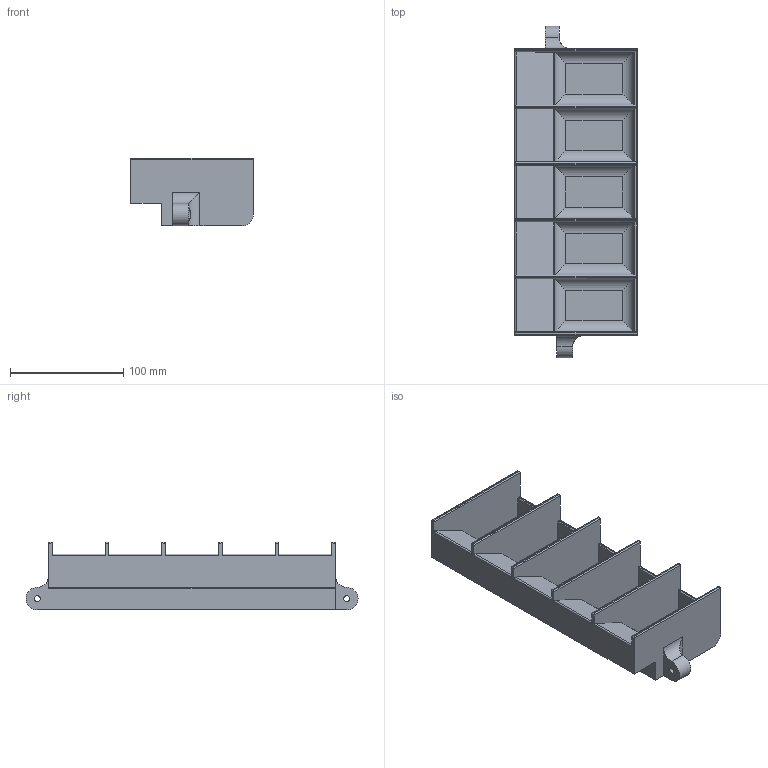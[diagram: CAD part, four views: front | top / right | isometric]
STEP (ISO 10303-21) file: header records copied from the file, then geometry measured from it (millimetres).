
FILE_DESCRIPTION(/* description */ ('STEP AP242','CAx-IF Rec.Pracs.---Representation and Presentation of Product Manufacturing Information (PMI)---4.0---2014-10-13','CAx-IF Rec.Pracs.---3D Tessellated Geometry---0.4---2014-09-14','2;1','CAx-IF Rec.Pracs.---User Defined Attributes---1.5---2016-08-15'),/* implementation_level */ '2;1');
FILE_NAME(/* name */ 'Full Assembly - Part 1 (2)',/* time_stamp */ '2025-11-03T04:00:12Z',/* author */ (''),/* organization */ (''),/* preprocessor_version */ 'ST-DEVELOPER v20',/* originating_system */ 'ONSHAPE BY PTC INC, 1.206',/* authorisation */ ' ');
FILE_SCHEMA (('AP242_MANAGED_MODEL_BASED_3D_ENGINEERING_MIM_LF { 1 0 10303 442 1 1 4 }'));
Length unit declared in the file: metre
Products named in the file (1): Part 1
Bounding box: 108 x 293 x 60 mm (x, y, z)
Volume: 421537 mm3; surface area: 145228.8 mm2
Topology: 1 solids, 1 shells, 127 faces, 327 edges, 202 vertices
Faces by surface type: cylinder 76, plane 51
Full cylindrical faces by diameter (mm): 5.2 x2
Entity records: 3857 total; most frequent: DIRECTION 683, CARTESIAN_POINT 675, ORIENTED_EDGE 650, EDGE_CURVE 325, AXIS2_PLACEMENT_3D 232, LINE 219, VECTOR 219, VERTEX_POINT 202
